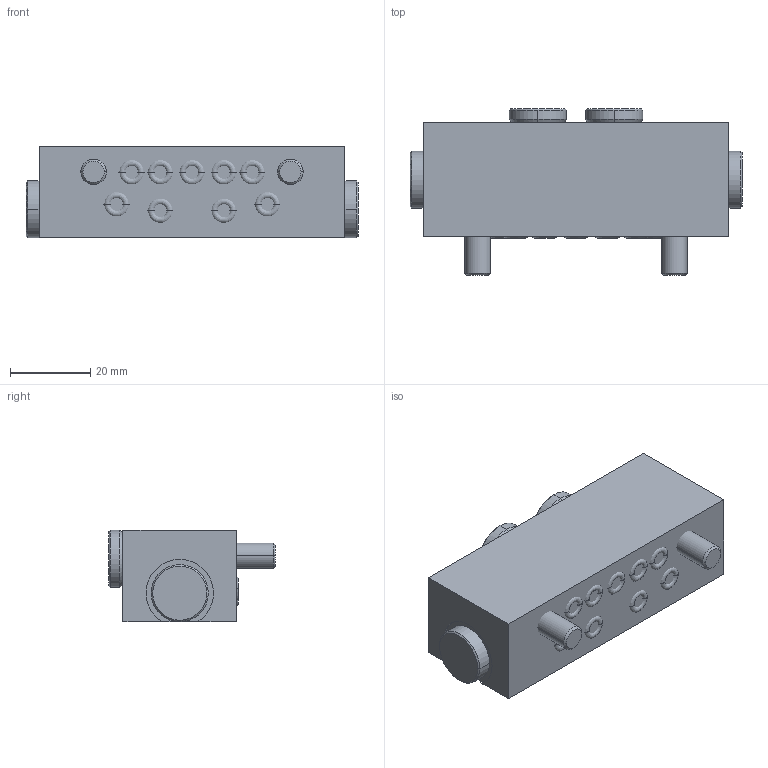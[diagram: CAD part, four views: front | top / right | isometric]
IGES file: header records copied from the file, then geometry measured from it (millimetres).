
Start section:  PTC IGES file: 562679-en-m.igs
Global section: file name: 562679-en-m.igs; native system: Creo Parametric by PTC Inc.; preprocessor: 2019030; author: qusrh3; organization: Unknown; date: 20200305.090235; units: inch
Bounding box: 82.98 x 41.66 x 22.86 mm (x, y, z)
Surface area: 12059.3 mm2 (no closed solid volume)
Topology: 0 solids, 0 shells, 62 faces, 244 edges, 244 vertices
Faces by surface type: revolution 48, bspline 14
